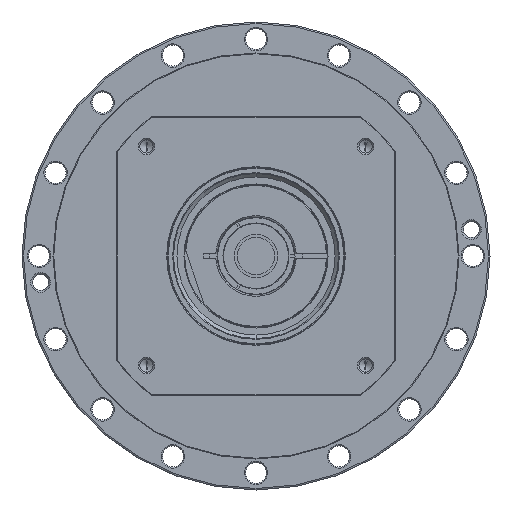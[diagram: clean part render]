
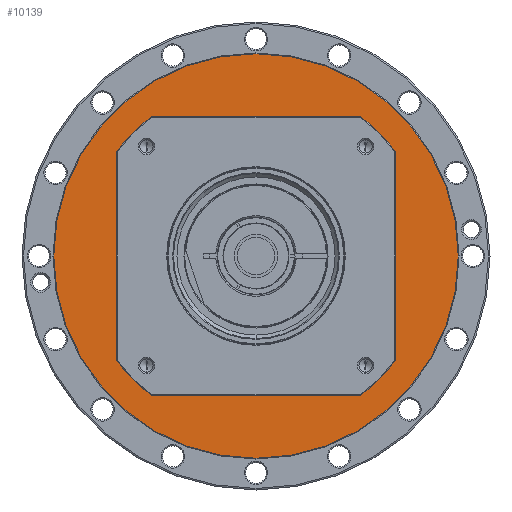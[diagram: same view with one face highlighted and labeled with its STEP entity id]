
A CAD part, left-side view. The second image highlights one B-rep face of the part: STEP entity #10139.
In plain terms, the highlighted planar face has unit normal (-1, 0, 0) as drawn and (1, 0, 0) by its records, which use the part's own axes.
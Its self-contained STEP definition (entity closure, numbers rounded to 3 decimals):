
#9170=CARTESIAN_POINT('',(-15.5,0.,0.));
#9171=DIRECTION('',(-1.,0.,0.));
#9172=DIRECTION('',(0.,-1.,0.));
#9173=AXIS2_PLACEMENT_3D('',#9170,#9171,#9172);
#9175=CARTESIAN_POINT('',(-15.5,0.,0.));
#9176=DIRECTION('',(-1.,0.,0.));
#9177=DIRECTION('',(0.,1.,0.));
#9178=AXIS2_PLACEMENT_3D('',#9175,#9176,#9177);
#9180=CARTESIAN_POINT('',(-15.5,0.,0.));
#9181=DIRECTION('',(-1.,0.,0.));
#9182=DIRECTION('',(0.,-1.,0.));
#9183=AXIS2_PLACEMENT_3D('',#9180,#9181,#9182);
#9185=CARTESIAN_POINT('',(-15.5,0.,0.));
#9186=DIRECTION('',(-1.,0.,0.));
#9187=DIRECTION('',(0.,1.,0.));
#9188=AXIS2_PLACEMENT_3D('',#9185,#9186,#9187);
#9432=CARTESIAN_POINT('',(-15.5,-130.5,0.));
#9433=CARTESIAN_POINT('',(-15.5,130.5,0.));
#9434=VERTEX_POINT('',#9432);
#9435=VERTEX_POINT('',#9433);
#9490=CARTESIAN_POINT('',(-15.5,-80.5,0.));
#9491=CARTESIAN_POINT('',(-15.5,80.5,0.));
#9492=VERTEX_POINT('',#9490);
#9493=VERTEX_POINT('',#9491);
#10124=CARTESIAN_POINT('',(-15.5,0.,0.));
#10125=DIRECTION('',(1.,0.,0.));
#10126=DIRECTION('',(0.,-1.,0.));
#10127=AXIS2_PLACEMENT_3D('',#10124,#10125,#10126);
#10128=PLANE('',#10127);
#10129=ORIENTED_EDGE('',*,*,#10080,.T.);
#10130=ORIENTED_EDGE('',*,*,#10065,.T.);
#10131=EDGE_LOOP('',(#10129,#10130));
#10132=FACE_OUTER_BOUND('',#10131,.F.);
#10134=ORIENTED_EDGE('',*,*,#10133,.F.);
#10136=ORIENTED_EDGE('',*,*,#10135,.F.);
#10137=EDGE_LOOP('',(#10134,#10136));
#10138=FACE_BOUND('',#10137,.F.);
#10139=ADVANCED_FACE('',(#10132,#10138),#10128,.T.);
#9174=CIRCLE('',#9173,80.5);
#9179=CIRCLE('',#9178,80.5);
#9184=CIRCLE('',#9183,130.5);
#9189=CIRCLE('',#9188,130.5);
#10065=EDGE_CURVE('',#9435,#9434,#9189,.T.);
#10080=EDGE_CURVE('',#9434,#9435,#9184,.T.);
#10133=EDGE_CURVE('',#9492,#9493,#9174,.T.);
#10135=EDGE_CURVE('',#9493,#9492,#9179,.T.);
